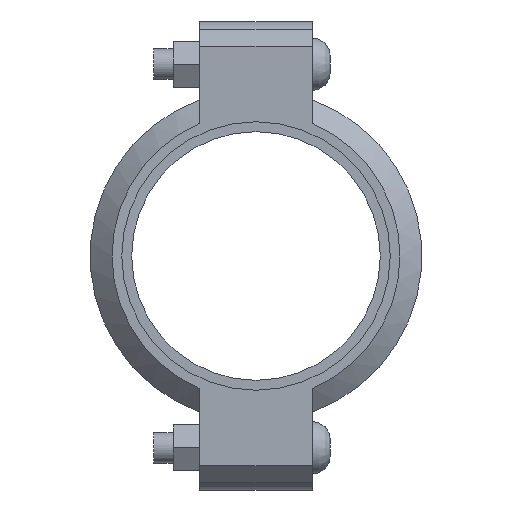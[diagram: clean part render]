
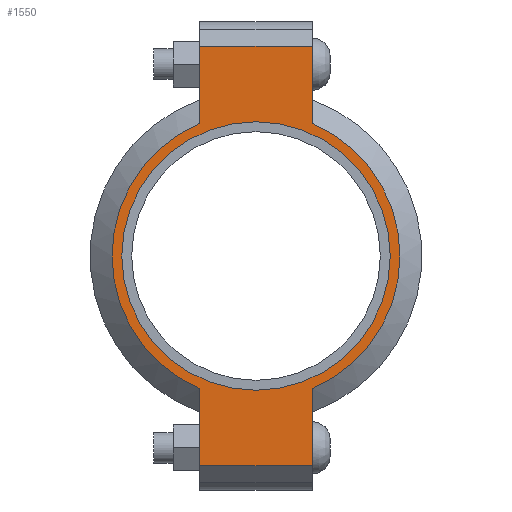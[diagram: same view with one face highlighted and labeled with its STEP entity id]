
A CAD part, left-side view. The second image highlights one B-rep face of the part: STEP entity #1550.
In plain terms, the highlighted planar face has unit normal (-1, 0, 0) as drawn and (0, 0, 1) by its records, which use the part's own axes.
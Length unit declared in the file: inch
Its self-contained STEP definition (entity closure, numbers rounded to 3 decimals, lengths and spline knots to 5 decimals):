
#174=LINE('',#2714,#267);
#182=LINE('',#2750,#275);
#189=LINE('',#2771,#282);
#198=LINE('',#2803,#291);
#199=LINE('',#2807,#292);
#200=LINE('',#2809,#293);
#267=VECTOR('',#2214,0.3937);
#275=VECTOR('',#2230,0.3937);
#282=VECTOR('',#2249,0.3937);
#291=VECTOR('',#2274,0.3937);
#292=VECTOR('',#2279,0.3937);
#293=VECTOR('',#2280,0.3937);
#349=FACE_BOUND('',#527,.T.);
#421=FACE_OUTER_BOUND('',#526,.T.);
#526=EDGE_LOOP('',(#1291,#1292,#1293,#1294,#1295,#1296,#1297,#1298));
#527=EDGE_LOOP('',(#1299));
#599=CIRCLE('',#1778,2.75);
#625=CIRCLE('',#1837,2.95);
#626=CIRCLE('',#1838,2.95);
#691=VERTEX_POINT('',#2530);
#734=VERTEX_POINT('',#2711);
#735=VERTEX_POINT('',#2713);
#746=VERTEX_POINT('',#2745);
#747=VERTEX_POINT('',#2749);
#754=VERTEX_POINT('',#2768);
#755=VERTEX_POINT('',#2770);
#765=VERTEX_POINT('',#2806);
#766=VERTEX_POINT('',#2808);
#847=EDGE_CURVE('',#691,#691,#599,.T.);
#908=EDGE_CURVE('',#735,#734,#174,.T.);
#922=EDGE_CURVE('',#747,#746,#182,.T.);
#932=EDGE_CURVE('',#755,#754,#189,.T.);
#947=EDGE_CURVE('',#747,#734,#198,.T.);
#948=EDGE_CURVE('',#746,#755,#625,.T.);
#949=EDGE_CURVE('',#765,#754,#199,.T.);
#950=EDGE_CURVE('',#765,#766,#200,.T.);
#951=EDGE_CURVE('',#766,#735,#626,.T.);
#1291=ORIENTED_EDGE('',*,*,#947,.F.);
#1292=ORIENTED_EDGE('',*,*,#922,.T.);
#1293=ORIENTED_EDGE('',*,*,#948,.T.);
#1294=ORIENTED_EDGE('',*,*,#932,.T.);
#1295=ORIENTED_EDGE('',*,*,#949,.F.);
#1296=ORIENTED_EDGE('',*,*,#950,.T.);
#1297=ORIENTED_EDGE('',*,*,#951,.T.);
#1298=ORIENTED_EDGE('',*,*,#908,.T.);
#1299=ORIENTED_EDGE('',*,*,#847,.T.);
#1392=PLANE('',#1836);
#1550=ADVANCED_FACE('',(#421,#349),#1392,.T.);
#1778=AXIS2_PLACEMENT_3D('',#2532,#2090,#2091);
#1836=AXIS2_PLACEMENT_3D('',#2804,#2275,#2276);
#1837=AXIS2_PLACEMENT_3D('',#2805,#2277,#2278);
#1838=AXIS2_PLACEMENT_3D('',#2810,#2281,#2282);
#2090=DIRECTION('center_axis',(0.,0.,-1.));
#2091=DIRECTION('ref_axis',(1.,0.,0.));
#2214=DIRECTION('',(1.,0.,0.));
#2230=DIRECTION('',(-1.,0.,0.));
#2249=DIRECTION('',(-1.,0.,0.));
#2274=DIRECTION('',(0.,-1.,0.));
#2275=DIRECTION('center_axis',(0.,0.,1.));
#2276=DIRECTION('ref_axis',(-1.,0.,0.));
#2277=DIRECTION('center_axis',(0.,0.,1.));
#2278=DIRECTION('ref_axis',(1.,0.,0.));
#2279=DIRECTION('',(0.,1.,0.));
#2280=DIRECTION('',(1.,0.,0.));
#2281=DIRECTION('center_axis',(0.,0.,1.));
#2282=DIRECTION('ref_axis',(1.,0.,0.));
#2530=CARTESIAN_POINT('',(-2.75,0.,1.065));
#2532=CARTESIAN_POINT('Origin',(0.,0.,1.065));
#2711=CARTESIAN_POINT('',(4.295,-1.15,1.065));
#2713=CARTESIAN_POINT('',(2.71662,-1.15,1.065));
#2714=CARTESIAN_POINT('',(4.795,-1.15,1.065));
#2745=CARTESIAN_POINT('',(2.71662,1.15,1.065));
#2749=CARTESIAN_POINT('',(4.295,1.15,1.065));
#2750=CARTESIAN_POINT('',(-4.795,1.15,1.065));
#2768=CARTESIAN_POINT('',(-4.295,1.15,1.065));
#2770=CARTESIAN_POINT('',(-2.71662,1.15,1.065));
#2771=CARTESIAN_POINT('',(-4.795,1.15,1.065));
#2803=CARTESIAN_POINT('',(4.295,-0.575,1.065));
#2804=CARTESIAN_POINT('Origin',(0.,0.,
1.065));
#2805=CARTESIAN_POINT('Origin',(0.,0.,1.065));
#2806=CARTESIAN_POINT('',(-4.295,-1.15,1.065));
#2807=CARTESIAN_POINT('',(-4.295,0.575,1.065));
#2808=CARTESIAN_POINT('',(-2.71662,-1.15,1.065));
#2809=CARTESIAN_POINT('',(4.795,-1.15,1.065));
#2810=CARTESIAN_POINT('Origin',(0.,0.,1.065));
